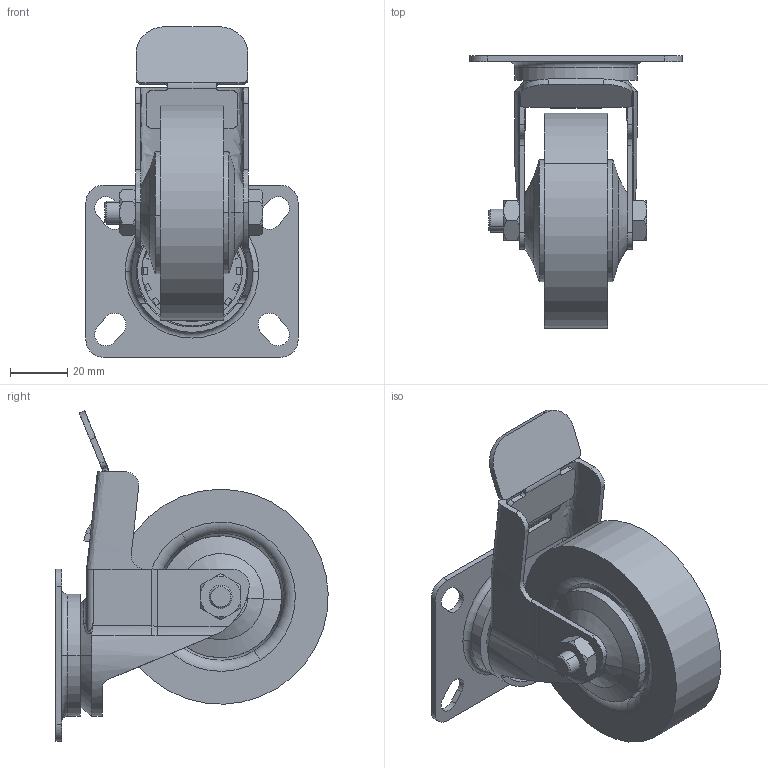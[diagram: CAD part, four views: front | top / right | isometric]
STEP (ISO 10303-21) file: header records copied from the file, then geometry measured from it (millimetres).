
FILE_DESCRIPTION (( 'STEP AP214' ), '1' );
FILE_NAME ('SNSD.30.50.79. Êîëåñî c òîðìîçîì O75 ñ ïëàòôîðìîé(H50).STEP', '2015-12-21T10:32:45', ( '' ), ( '' ), 'SwSTEP 2.0', 'SolidWorks 2014', '' );
FILE_SCHEMA (( 'AUTOMOTIVE_DESIGN' ));
Length unit declared in the file: millimetre
Products named in the file (18): SNSD.30.50.71. Îïîðà(H51)_00; SNSD.30.50.71. Îñü(H51)H50; SNSD.30.50.71. 秬謽馵(H51); SNSD.30.50.71. Ïîäïèøïèêîâûé óçåë(H51)H50; SNSD.30.50.71. 青蜞(H51)H50; SNSD.30.50.71. Ãàéêà(H51)H50; SNSD.30.50.71. 鍔錓(H51)H50; SNSD.30.50.71. 扻錼勷(H51)H50; SNSD.30.50.71. Îïîðà(H51); SNSD.30.50.79. Êîëåñî c òîðìîçîì O75  ñ ïëàòôîðìîé(H50); SNSD.30.50.71. 秬謽馵(H51)_00; SNSD.30.50.71. Îñü(H51)H50_00; SNSD.30.50.71. Ïîäïèøïèêîâûé óçåë(H51)H50_00; SNSD.30.50.71. 青蜞(H51)H50_00; SNSD.30.50.71. Ãàéêà(H51)H50_00; SNSD.30.50.71. 鍔錓(H51)H50_00; SNSD.30.50.71. 扻錼勷(H51)H50_00
Assembly tree (9 placements, depth 2):
  SNSD.30.50.71. Îñü(H51)H50
  SNSD.30.50.71. 秬謽馵(H51)
  SNSD.30.50.71. Ïîäïèøïèêîâûé óçåë(H51)H50
  SNSD.30.50.71. 青蜞(H51)H50
  SNSD.30.50.71. 青蜞(H51)H50
Bounding box: 74 x 94.98 x 115.26 mm (x, y, z)
Volume: 112405.6 mm3; surface area: 58502.6 mm2
Topology: 9 solids, 9 shells, 410 faces, 989 edges, 611 vertices
Faces by surface type: plane 219, cylinder 109, cone 46, torus 27, bspline 9
Entity records: 12927 total; most frequent: CARTESIAN_POINT 3195, DIRECTION 1942, ORIENTED_EDGE 1910, EDGE_CURVE 955, AXIS2_PLACEMENT_3D 706, VERTEX_POINT 591, VECTOR 530, LINE 530
